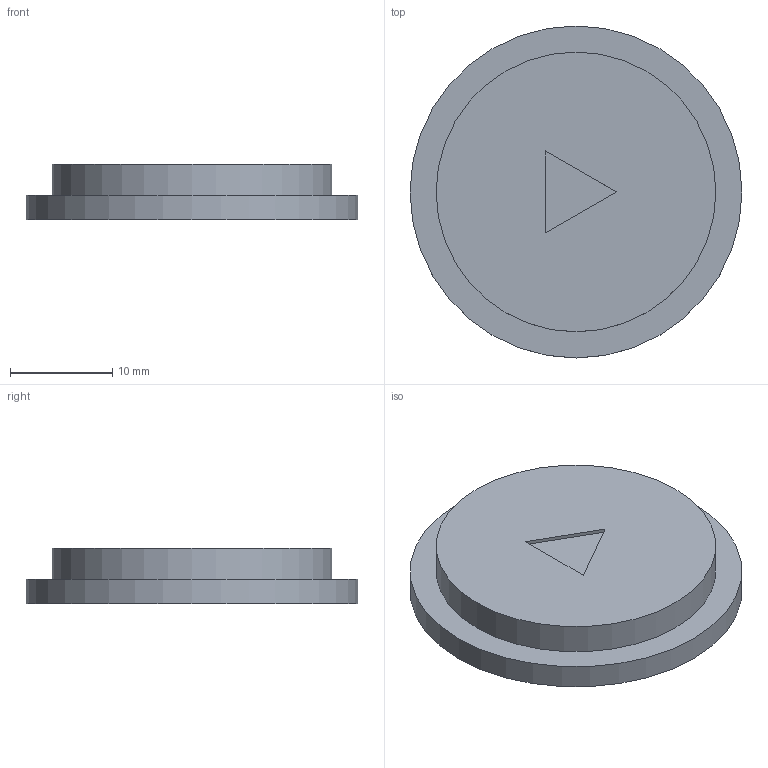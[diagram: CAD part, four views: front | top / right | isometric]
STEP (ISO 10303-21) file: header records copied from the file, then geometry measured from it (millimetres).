
FILE_DESCRIPTION(/* description */ (''),/* implementation_level */ '2;1');
FILE_NAME(/* name */ '06_Play.step',/* time_stamp */ '2026-09-16T19:15:03-07:00',/* author */ (''),/* organization */ (''),/* preprocessor_version */ 'ST-DEVELOPER v20.1',/* originating_system */ 'Autodesk Translation Framework v15.8.0.0',/* authorisation */ '');
FILE_SCHEMA (('AUTOMOTIVE_DESIGN { 1 0 10303 214 3 1 1 }'));
Length unit declared in the file: centimetre
Products named in the file (1): 2026-09-16-19-15-03-038
Bounding box: 32.4 x 32.4 x 5.4 mm (x, y, z)
Volume: 2542.8 mm3; surface area: 2370.1 mm2
Topology: 1 solids, 1 shells, 11 faces, 18 edges, 12 vertices
Faces by surface type: plane 8, cylinder 3
Full cylindrical faces by diameter (mm): 22.4 x1, 27.3 x1, 32.4 x1
Entity records: 298 total; most frequent: DIRECTION 48, CARTESIAN_POINT 42, ORIENTED_EDGE 36, EDGE_CURVE 18, AXIS2_PLACEMENT_3D 18, EDGE_LOOP 14, LINE 12, VECTOR 12
